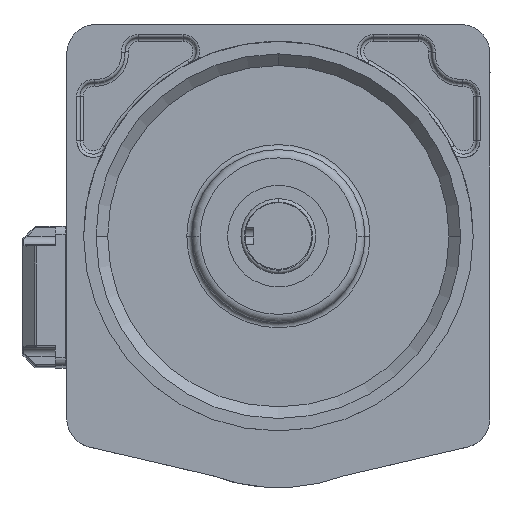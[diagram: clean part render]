
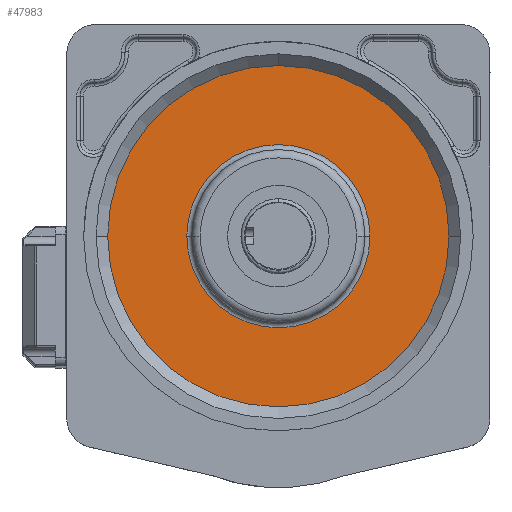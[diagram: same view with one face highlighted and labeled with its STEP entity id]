
A CAD part, top view. The second image highlights one B-rep face of the part: STEP entity #47983.
In plain terms, the highlighted planar face has unit normal (0, 0, 1) as drawn and (0, 1, 0) by its records, which use the part's own axes.
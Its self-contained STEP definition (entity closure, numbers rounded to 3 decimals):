
#1475 = DIRECTION ( 'NONE',  ( 1., 0., 0. ) ) ;
#4021 = FACE_BOUND ( 'NONE', #76028, .T. ) ;
#7356 = DIRECTION ( 'NONE',  ( 0., 0., 1. ) ) ;
#10534 = EDGE_LOOP ( 'NONE', ( #63391, #56050, #64081 ) ) ;
#18763 = CARTESIAN_POINT ( 'NONE',  ( 55., 139.5, -36.014 ) ) ;
#20496 = CARTESIAN_POINT ( 'NONE',  ( 0., 139.5, -36. ) ) ;
#27843 = AXIS2_PLACEMENT_3D ( 'NONE', #20496, #61246, #101973 ) ;
#32605 = VERTEX_POINT ( 'NONE', #18763 ) ;
#34744 = DIRECTION ( 'NONE',  ( 1., 0., 0. ) ) ;
#35071 = AXIS2_PLACEMENT_3D ( 'NONE', #89975, #130744, #39237 ) ;
#36341 = CIRCLE ( 'NONE', #110968, 102.5 ) ;
#37437 = CIRCLE ( 'NONE', #54494, 55. ) ;
#39237 = DIRECTION ( 'NONE',  ( 0., 0., -1. ) ) ;
#40157 = VERTEX_POINT ( 'NONE', #130490 ) ;
#41497 = CARTESIAN_POINT ( 'NONE',  ( 0., 139.5, -36. ) ) ;
#44713 = CIRCLE ( 'NONE', #61720, 102.5 ) ;
#44778 = PLANE ( 'NONE',  #117819 ) ;
#45868 = CARTESIAN_POINT ( 'NONE',  ( 0., 139.5, -138.5 ) ) ;
#46527 = ORIENTED_EDGE ( 'NONE', *, *, #55006, .T. ) ;
#47983 = ADVANCED_FACE ( 'NONE', ( #95510, #4021 ), #44778, .T. ) ;
#50449 = VERTEX_POINT ( 'NONE', #45868 ) ;
#51814 = ORIENTED_EDGE ( 'NONE', *, *, #107446, .F. ) ;
#52218 = CARTESIAN_POINT ( 'NONE',  ( 0., 139.5, -36. ) ) ;
#54494 = AXIS2_PLACEMENT_3D ( 'NONE', #52218, #92954, #1475 ) ;
#54661 = EDGE_CURVE ( 'NONE', #40157, #105418, #36341, .T. ) ;
#55006 = EDGE_CURVE ( 'NONE', #32605, #67998, #85421, .T. ) ;
#56050 = ORIENTED_EDGE ( 'NONE', *, *, #54661, .F. ) ;
#58098 = CARTESIAN_POINT ( 'NONE',  ( 0., 139.5, -36. ) ) ;
#61246 = DIRECTION ( 'NONE',  ( 0., -1., 0. ) ) ;
#61720 = AXIS2_PLACEMENT_3D ( 'NONE', #41497, #82196, #122951 ) ;
#63391 = ORIENTED_EDGE ( 'NONE', *, *, #105921, .F. ) ;
#64081 = ORIENTED_EDGE ( 'NONE', *, *, #86908, .F. ) ;
#67998 = VERTEX_POINT ( 'NONE', #104856 ) ;
#76028 = EDGE_LOOP ( 'NONE', ( #46527, #51814 ) ) ;
#76825 = CARTESIAN_POINT ( 'NONE',  ( -102.5, 139.5, -36. ) ) ;
#82196 = DIRECTION ( 'NONE',  ( 0., -1., 0. ) ) ;
#85421 = CIRCLE ( 'NONE', #27843, 55. ) ;
#85477 = CARTESIAN_POINT ( 'NONE',  ( 0., 139.5, -36. ) ) ;
#86908 = EDGE_CURVE ( 'NONE', #50449, #40157, #44713, .T. ) ;
#89975 = CARTESIAN_POINT ( 'NONE',  ( 0., 139.5, -36. ) ) ;
#92617 = CIRCLE ( 'NONE', #35071, 102.5 ) ;
#92954 = DIRECTION ( 'NONE',  ( 0., 1., 0. ) ) ;
#95510 = FACE_OUTER_BOUND ( 'NONE', #10534, .T. ) ;
#98845 = DIRECTION ( 'NONE',  ( 0., -1., 0. ) ) ;
#101973 = DIRECTION ( 'NONE',  ( 1., 0., 0. ) ) ;
#104856 = CARTESIAN_POINT ( 'NONE',  ( -55., 139.5, -35.986 ) ) ;
#105418 = VERTEX_POINT ( 'NONE', #76825 ) ;
#105921 = EDGE_CURVE ( 'NONE', #105418, #50449, #92617, .T. ) ;
#107446 = EDGE_CURVE ( 'NONE', #32605, #67998, #37437, .T. ) ;
#110968 = AXIS2_PLACEMENT_3D ( 'NONE', #58098, #98845, #7356 ) ;
#117819 = AXIS2_PLACEMENT_3D ( 'NONE', #85477, #126267, #34744 ) ;
#122951 = DIRECTION ( 'NONE',  ( 0., 0., -1. ) ) ;
#126267 = DIRECTION ( 'NONE',  ( 0., 1., 0. ) ) ;
#130490 = CARTESIAN_POINT ( 'NONE',  ( 102.5, 139.5, -36. ) ) ;
#130744 = DIRECTION ( 'NONE',  ( 0., -1., 0. ) ) ;
